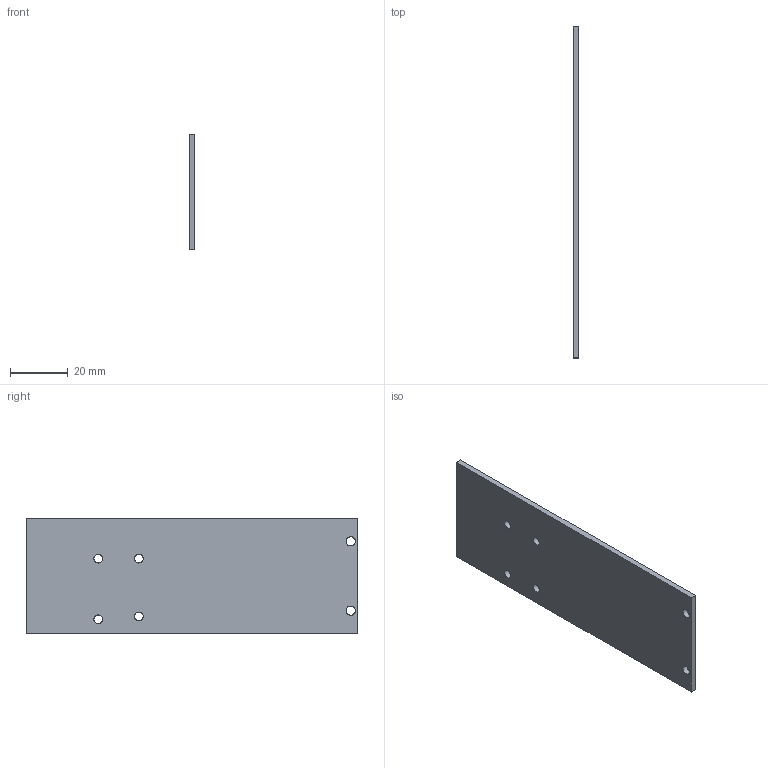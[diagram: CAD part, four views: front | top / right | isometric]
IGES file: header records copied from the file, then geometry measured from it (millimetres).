
Start section: C
Global section: file name: 9_PMT_mount_part1.igs; native system: By Siemens PLM Incorporated; preprocessor: XPlus GENERIC/IGES 22.0.50; author: Author; organization: Title; date: 20200703.181400; units: millimetre
Bounding box: 2 x 115 x 40 mm (x, y, z)
Surface area: 9847.1 mm2 (no closed solid volume)
Topology: 0 solids, 0 shells, 12 faces, 84 edges, 84 vertices
Faces by surface type: bspline 12
